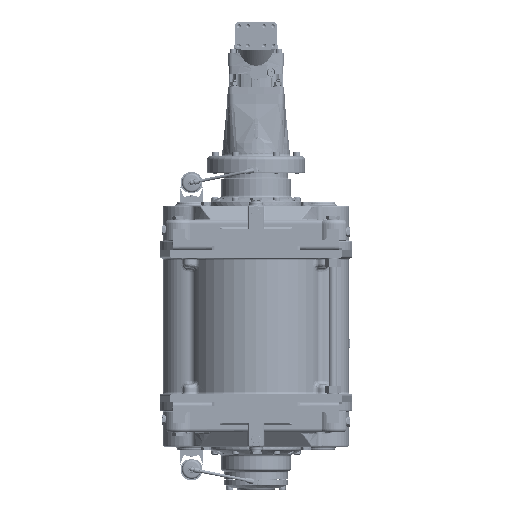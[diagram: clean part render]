
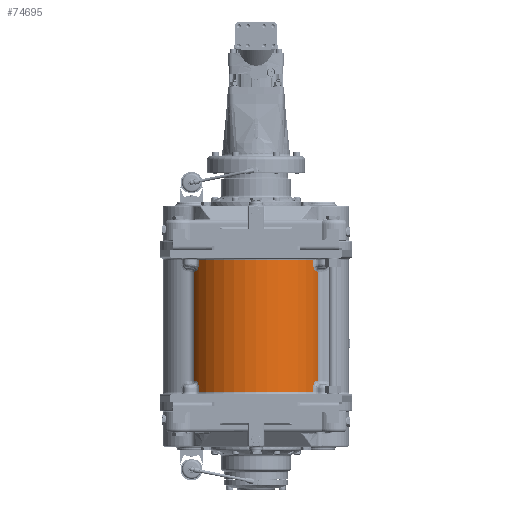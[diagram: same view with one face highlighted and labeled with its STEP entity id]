
A CAD part, front view. The second image highlights one B-rep face of the part: STEP entity #74695.
In plain terms, the highlighted cylindrical face has radius 180.5 mm (diameter 361 mm), a partial arc.
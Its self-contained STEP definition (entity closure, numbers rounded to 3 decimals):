
#1761=B_SPLINE_CURVE_WITH_KNOTS('',3,(#126889,#126890,#126891,#126892,#126893,
#126894,#126895),.UNSPECIFIED.,.F.,.F.,(4,1,1,1,4),(-3.142,-2.244,
-1.347,-0.898,0.),
 .UNSPECIFIED.);
#1763=B_SPLINE_CURVE_WITH_KNOTS('',3,(#127055,#127056,#127057,#127058,#127059,
#127060,#127061),.UNSPECIFIED.,.F.,.F.,(4,1,1,1,4),(-3.142,-2.244,
-1.347,-0.898,0.),.UNSPECIFIED.);
#1770=B_SPLINE_CURVE_WITH_KNOTS('',3,(#127287,#127288,#127289,#127290,#127291,
#127292,#127293),.UNSPECIFIED.,.F.,.F.,(4,1,1,1,4),(-3.142,-2.693,
-1.796,-0.898,0.),
 .UNSPECIFIED.);
#1773=B_SPLINE_CURVE_WITH_KNOTS('',3,(#127417,#127418,#127419,#127420,#127421,
#127422,#127423),.UNSPECIFIED.,.F.,.F.,(4,1,1,1,4),(-3.142,-2.244,
-1.347,-0.898,0.),
 .UNSPECIFIED.);
#4883=CYLINDRICAL_SURFACE('',#81835,180.5);
#7752=LINE('',#126898,#12524);
#7762=LINE('',#127075,#12534);
#7770=LINE('',#127198,#12542);
#7776=LINE('',#127307,#12548);
#7782=LINE('',#127424,#12554);
#7783=LINE('',#127425,#12555);
#12524=VECTOR('',#94623,10.);
#12534=VECTOR('',#94683,10.);
#12542=VECTOR('',#94733,10.);
#12548=VECTOR('',#94751,10.);
#12554=VECTOR('',#94797,10.);
#12555=VECTOR('',#94798,10.);
#17743=FACE_OUTER_BOUND('',#22308,.T.);
#22308=EDGE_LOOP('',(#55962,#55963,#55964,#55965,#55966,#55967,#55968,#55969,
#55970,#55971,#55972,#55973,#55974,#55975,#55976,#55977));
#26739=CIRCLE('',#81487,180.5);
#26817=CIRCLE('',#81610,180.5);
#26916=CIRCLE('',#81781,180.5);
#26923=CIRCLE('',#81795,180.5);
#26941=CIRCLE('',#81822,180.5);
#26951=CIRCLE('',#81836,180.5);
#31262=VERTEX_POINT('',#125131);
#31263=VERTEX_POINT('',#125135);
#31328=VERTEX_POINT('',#126174);
#31329=VERTEX_POINT('',#126178);
#31386=VERTEX_POINT('',#126886);
#31387=VERTEX_POINT('',#126888);
#31396=VERTEX_POINT('',#126998);
#31397=VERTEX_POINT('',#127053);
#31398=VERTEX_POINT('',#127054);
#31406=VERTEX_POINT('',#127143);
#31414=VERTEX_POINT('',#127196);
#31421=VERTEX_POINT('',#127285);
#31422=VERTEX_POINT('',#127286);
#31428=VERTEX_POINT('',#127365);
#31434=VERTEX_POINT('',#127414);
#31435=VERTEX_POINT('',#127416);
#39875=EDGE_CURVE('',#31262,#31263,#26739,.T.);
#40011=EDGE_CURVE('',#31328,#31329,#26817,.T.);
#40152=EDGE_CURVE('',#31386,#31387,#1761,.T.);
#40154=EDGE_CURVE('',#31263,#31386,#7752,.T.);
#40173=EDGE_CURVE('',#31387,#31396,#26916,.T.);
#40177=EDGE_CURVE('',#31397,#31398,#1763,.T.);
#40182=EDGE_CURVE('',#31398,#31262,#7762,.T.);
#40190=EDGE_CURVE('',#31406,#31397,#26923,.T.);
#40207=EDGE_CURVE('',#31406,#31414,#7770,.T.);
#40216=EDGE_CURVE('',#31421,#31422,#1770,.T.);
#40221=EDGE_CURVE('',#31422,#31328,#7776,.T.);
#40227=EDGE_CURVE('',#31428,#31421,#26941,.T.);
#40241=EDGE_CURVE('',#31434,#31414,#26951,.T.);
#40242=EDGE_CURVE('',#31435,#31434,#1773,.T.);
#40243=EDGE_CURVE('',#31329,#31435,#7782,.T.);
#40244=EDGE_CURVE('',#31396,#31428,#7783,.T.);
#55962=ORIENTED_EDGE('',*,*,#39875,.F.);
#55963=ORIENTED_EDGE('',*,*,#40182,.F.);
#55964=ORIENTED_EDGE('',*,*,#40177,.F.);
#55965=ORIENTED_EDGE('',*,*,#40190,.F.);
#55966=ORIENTED_EDGE('',*,*,#40207,.T.);
#55967=ORIENTED_EDGE('',*,*,#40241,.F.);
#55968=ORIENTED_EDGE('',*,*,#40242,.F.);
#55969=ORIENTED_EDGE('',*,*,#40243,.F.);
#55970=ORIENTED_EDGE('',*,*,#40011,.F.);
#55971=ORIENTED_EDGE('',*,*,#40221,.F.);
#55972=ORIENTED_EDGE('',*,*,#40216,.F.);
#55973=ORIENTED_EDGE('',*,*,#40227,.F.);
#55974=ORIENTED_EDGE('',*,*,#40244,.F.);
#55975=ORIENTED_EDGE('',*,*,#40173,.F.);
#55976=ORIENTED_EDGE('',*,*,#40152,.F.);
#55977=ORIENTED_EDGE('',*,*,#40154,.F.);
#74695=ADVANCED_FACE('',(#17743),#4883,.T.);
#81487=AXIS2_PLACEMENT_3D('',#125137,#93996,#93997);
#81610=AXIS2_PLACEMENT_3D('',#126180,#94274,#94275);
#81781=AXIS2_PLACEMENT_3D('',#127003,#94662,#94663);
#81795=AXIS2_PLACEMENT_3D('',#127145,#94696,#94697);
#81822=AXIS2_PLACEMENT_3D('',#127367,#94763,#94764);
#81835=AXIS2_PLACEMENT_3D('',#127413,#94793,#94794);
#81836=AXIS2_PLACEMENT_3D('',#127415,#94795,#94796);
#93996=DIRECTION('center_axis',(0.,0.,
-1.));
#93997=DIRECTION('ref_axis',(0.,-1.,0.));
#94274=DIRECTION('center_axis',(0.,0.,
1.));
#94275=DIRECTION('ref_axis',(0.,-1.,0.));
#94623=DIRECTION('',(0.,0.,1.));
#94662=DIRECTION('center_axis',(0.,0.,
-1.));
#94663=DIRECTION('ref_axis',(-0.872,-0.489,0.));
#94683=DIRECTION('',(0.,0.,-1.));
#94696=DIRECTION('center_axis',(0.,0.,
-1.));
#94697=DIRECTION('ref_axis',(0.872,-0.489,0.));
#94733=DIRECTION('',(0.,0.,1.));
#94751=DIRECTION('',(0.,0.,1.));
#94763=DIRECTION('center_axis',(0.,0.,
1.));
#94764=DIRECTION('ref_axis',(-0.872,-0.489,0.));
#94793=DIRECTION('center_axis',(0.,0.,
1.));
#94794=DIRECTION('ref_axis',(-0.891,-0.454,0.));
#94795=DIRECTION('center_axis',(0.,0.,
1.));
#94796=DIRECTION('ref_axis',(0.872,-0.489,0.));
#94797=DIRECTION('',(0.,0.,-1.));
#94798=DIRECTION('',(0.,0.,1.));
#125131=CARTESIAN_POINT('',(148.662,-102.371,-172.));
#125135=CARTESIAN_POINT('',(-148.662,-102.371,-172.));
#125137=CARTESIAN_POINT('Origin',(0.,0.,
-172.));
#126174=CARTESIAN_POINT('',(-148.662,-102.371,172.));
#126178=CARTESIAN_POINT('',(148.662,-102.371,172.));
#126180=CARTESIAN_POINT('Origin',(0.,0.,
172.));
#126886=CARTESIAN_POINT('',(-148.662,-102.371,-162.));
#126888=CARTESIAN_POINT('',(-158.576,-86.221,-142.));
#126889=CARTESIAN_POINT('Ctrl Pts',(-148.662,-102.371,-162.));
#126890=CARTESIAN_POINT('Ctrl Pts',(-148.662,-102.371,-159.007));
#126891=CARTESIAN_POINT('Ctrl Pts',(-149.404,-101.308,
-153.024));
#126892=CARTESIAN_POINT('Ctrl Pts',(-151.912,-97.529,
-147.031));
#126893=CARTESIAN_POINT('Ctrl Pts',(-155.097,-92.393,
-143.027));
#126894=CARTESIAN_POINT('Ctrl Pts',(-157.221,-88.712,
-142.));
#126895=CARTESIAN_POINT('Ctrl Pts',(-158.576,-86.221,
-142.));
#126898=CARTESIAN_POINT('',(-148.662,-102.371,0.));
#126998=CARTESIAN_POINT('',(-160.817,-81.965,-142.));
#127003=CARTESIAN_POINT('Origin',(0.,0.,
-142.));
#127053=CARTESIAN_POINT('',(158.576,-86.221,-142.));
#127054=CARTESIAN_POINT('',(148.662,-102.371,-162.));
#127055=CARTESIAN_POINT('Ctrl Pts',(158.576,-86.221,
-142.));
#127056=CARTESIAN_POINT('Ctrl Pts',(157.221,-88.712,-142.));
#127057=CARTESIAN_POINT('Ctrl Pts',(154.386,-93.625,-143.364));
#127058=CARTESIAN_POINT('Ctrl Pts',(151.329,-98.412,
-148.148));
#127059=CARTESIAN_POINT('Ctrl Pts',(149.22,-101.57,
-154.524));
#127060=CARTESIAN_POINT('Ctrl Pts',(148.662,-102.371,
-159.007));
#127061=CARTESIAN_POINT('Ctrl Pts',(148.662,-102.371,
-162.));
#127075=CARTESIAN_POINT('',(148.662,-102.371,0.));
#127143=CARTESIAN_POINT('',(160.817,-81.965,-142.));
#127145=CARTESIAN_POINT('Origin',(0.,0.,
-142.));
#127196=CARTESIAN_POINT('',(160.817,-81.965,142.));
#127198=CARTESIAN_POINT('',(160.817,-81.965,0.));
#127285=CARTESIAN_POINT('',(-158.576,-86.221,142.));
#127286=CARTESIAN_POINT('',(-148.662,-102.371,162.));
#127287=CARTESIAN_POINT('Ctrl Pts',(-158.576,-86.221,142.));
#127288=CARTESIAN_POINT('Ctrl Pts',(-157.898,-87.466,
142.));
#127289=CARTESIAN_POINT('Ctrl Pts',(-155.823,-91.18,
142.5));
#127290=CARTESIAN_POINT('Ctrl Pts',(-152.415,-96.776,
145.827));
#127291=CARTESIAN_POINT('Ctrl Pts',(-149.404,-101.307,
153.025));
#127292=CARTESIAN_POINT('Ctrl Pts',(-148.662,-102.371,
159.007));
#127293=CARTESIAN_POINT('Ctrl Pts',(-148.662,-102.371,
162.));
#127307=CARTESIAN_POINT('',(-148.662,-102.371,0.));
#127365=CARTESIAN_POINT('',(-160.817,-81.965,142.));
#127367=CARTESIAN_POINT('Origin',(0.,0.,
142.));
#127413=CARTESIAN_POINT('Origin',(0.,0.,
0.));
#127414=CARTESIAN_POINT('',(158.576,-86.221,142.));
#127415=CARTESIAN_POINT('Origin',(0.,0.,
142.));
#127416=CARTESIAN_POINT('',(148.662,-102.371,162.));
#127417=CARTESIAN_POINT('Ctrl Pts',(148.662,-102.371,
162.));
#127418=CARTESIAN_POINT('Ctrl Pts',(148.662,-102.371,
159.007));
#127419=CARTESIAN_POINT('Ctrl Pts',(149.404,-101.308,
153.024));
#127420=CARTESIAN_POINT('Ctrl Pts',(151.912,-97.529,
147.031));
#127421=CARTESIAN_POINT('Ctrl Pts',(155.097,-92.393,
143.027));
#127422=CARTESIAN_POINT('Ctrl Pts',(157.221,-88.712,
142.));
#127423=CARTESIAN_POINT('Ctrl Pts',(158.576,-86.221,
142.));
#127424=CARTESIAN_POINT('',(148.662,-102.371,0.));
#127425=CARTESIAN_POINT('',(-160.817,-81.965,0.));
